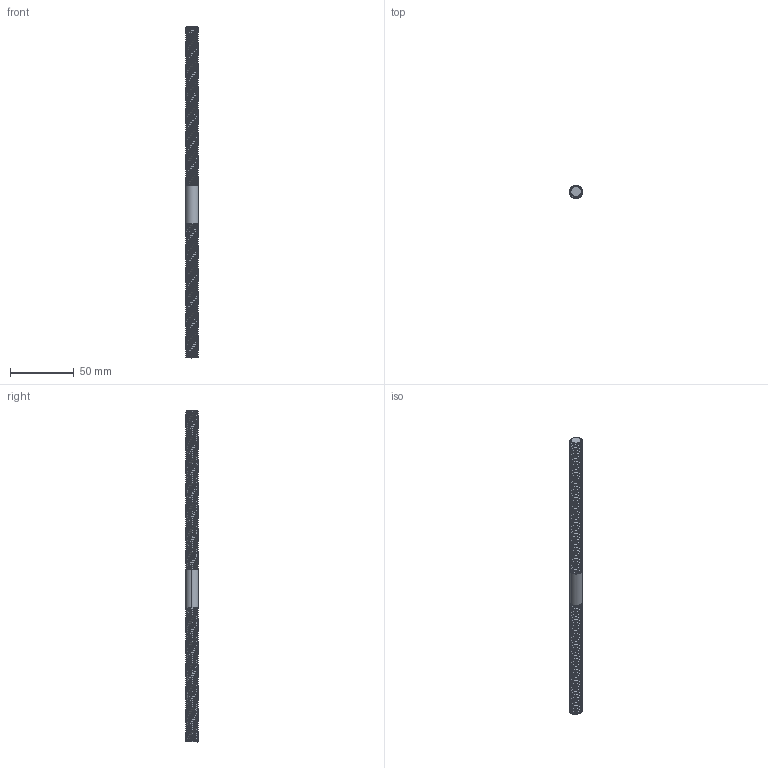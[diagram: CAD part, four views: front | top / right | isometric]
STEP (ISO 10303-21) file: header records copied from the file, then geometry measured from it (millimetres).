
FILE_DESCRIPTION (( 'STEP AP203' ), '1' );
FILE_NAME ('Tige filetée M10.STEP', '2025-09-18T11:59:33', ( '' ), ( '' ), 'SwSTEP 2.0', 'SolidWorks 2019', '' );
FILE_SCHEMA (( 'CONFIG_CONTROL_DESIGN' ));
Products named in the file (1): Tige filetée M10
Bounding box: 10 x 10 x 260 mm (x, y, z)
Volume: 17575.9 mm3; surface area: 12266.6 mm2
Topology: 1 solids, 1 shells, 320 faces, 954 edges, 636 vertices
Faces by surface type: cylinder 307, bspline 6, plane 5, cone 2
Entity records: 64249 total; most frequent: CARTESIAN_POINT 56834, ORIENTED_EDGE 1908, DIRECTION 964, EDGE_CURVE 954, VERTEX_POINT 636, B_SPLINE_CURVE_WITH_KNOTS 631, AXIS2_PLACEMENT_3D 326, FACE_OUTER_BOUND 320
